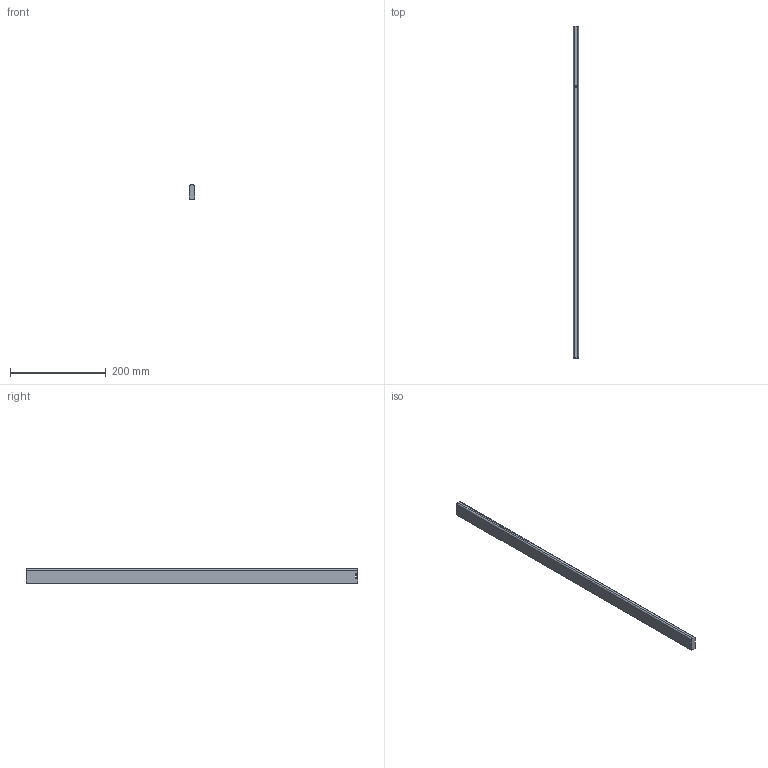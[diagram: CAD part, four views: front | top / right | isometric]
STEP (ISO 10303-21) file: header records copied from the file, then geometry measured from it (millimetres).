
FILE_DESCRIPTION (( 'STEP AP214' ), '1' );
FILE_NAME ('_Seitenreling_S760609500_RL694,5.step', '2010-09-06T14:51:37', ( 'grass' ), ( '' ), 'SwSTEP 2.0', 'SolidWorks 2010', '' );
FILE_SCHEMA (( 'AUTOMOTIVE_DESIGN' ));
Length unit declared in the file: millimetre
Products named in the file (1): _Seitenreling_S760609500_RL694,5
Bounding box: 10.5 x 694.5 x 30 mm (x, y, z)
Volume: 214698.7 mm3; surface area: 55941.5 mm2
Topology: 1 solids, 1 shells, 23 faces, 56 edges, 36 vertices
Faces by surface type: plane 15, cylinder 8
Entity records: 716 total; most frequent: DIRECTION 120, CARTESIAN_POINT 116, ORIENTED_EDGE 112, EDGE_CURVE 56, AXIS2_PLACEMENT_3D 40, VECTOR 40, LINE 40, VERTEX_POINT 36
